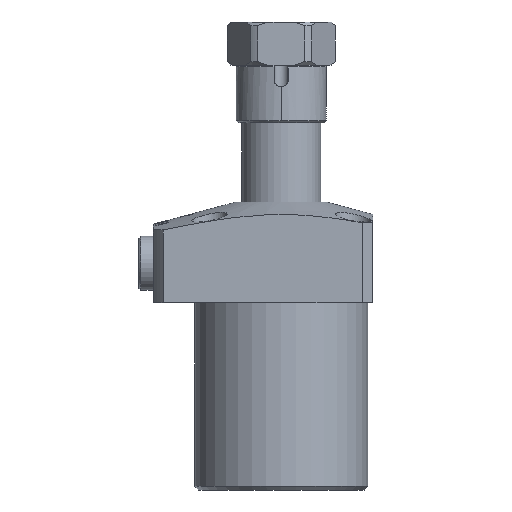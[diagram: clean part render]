
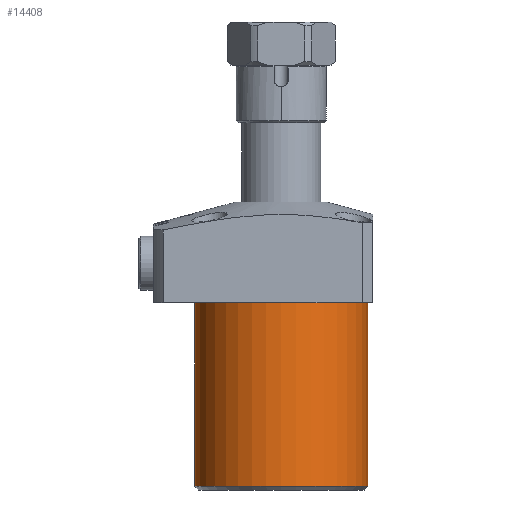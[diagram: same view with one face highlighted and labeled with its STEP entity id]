
A CAD part, front view. The second image highlights one B-rep face of the part: STEP entity #14408.
In plain terms, the highlighted cylindrical face has radius 24 mm (diameter 48 mm), a partial arc.
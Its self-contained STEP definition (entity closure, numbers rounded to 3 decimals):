
#235 = VECTOR ( 'NONE', #13787, 1000. ) ;
#920 = EDGE_CURVE ( 'NONE', #15205, #4272, #2001, .T. ) ;
#1131 = CARTESIAN_POINT ( 'NONE',  ( 0., 0., -51. ) ) ;
#1201 = ORIENTED_EDGE ( 'NONE', *, *, #9675, .T. ) ;
#2001 = CIRCLE ( 'NONE', #11495, 24. ) ;
#2251 = DIRECTION ( 'NONE',  ( 0., 0., 1. ) ) ;
#2415 = DIRECTION ( 'NONE',  ( -1., 0., 0. ) ) ;
#2570 = EDGE_CURVE ( 'NONE', #5489, #15078, #13168, .T. ) ;
#2660 = CARTESIAN_POINT ( 'NONE',  ( -24., 0., -51. ) ) ;
#3593 = DIRECTION ( 'NONE',  ( 0., 0., -1. ) ) ;
#4100 = EDGE_LOOP ( 'NONE', ( #8265, #15662, #1201, #9653 ) ) ;
#4272 = VERTEX_POINT ( 'NONE', #8943 ) ;
#4277 = AXIS2_PLACEMENT_3D ( 'NONE', #11422, #3593, #12720 ) ;
#4892 = DIRECTION ( 'NONE',  ( 1., 0., 0. ) ) ;
#5489 = VERTEX_POINT ( 'NONE', #8293 ) ;
#5625 = CARTESIAN_POINT ( 'NONE',  ( -24., 0., -52. ) ) ;
#5987 = FACE_OUTER_BOUND ( 'NONE', #4100, .T. ) ;
#6593 = VECTOR ( 'NONE', #9525, 1000. ) ;
#6993 = LINE ( 'NONE', #5625, #6593 ) ;
#7291 = CARTESIAN_POINT ( 'NONE',  ( 24., 0., -52. ) ) ;
#8265 = ORIENTED_EDGE ( 'NONE', *, *, #14737, .F. ) ;
#8293 = CARTESIAN_POINT ( 'NONE',  ( 24., 0., 0. ) ) ;
#8341 = AXIS2_PLACEMENT_3D ( 'NONE', #12718, #2251, #4892 ) ;
#8943 = CARTESIAN_POINT ( 'NONE',  ( 24., 0., -51. ) ) ;
#9054 = CYLINDRICAL_SURFACE ( 'NONE', #8341, 24. ) ;
#9525 = DIRECTION ( 'NONE',  ( 0., 0., 1. ) ) ;
#9653 = ORIENTED_EDGE ( 'NONE', *, *, #2570, .T. ) ;
#9675 = EDGE_CURVE ( 'NONE', #4272, #5489, #10610, .T. ) ;
#10226 = DIRECTION ( 'NONE',  ( 0., 0., 1. ) ) ;
#10610 = LINE ( 'NONE', #7291, #235 ) ;
#11422 = CARTESIAN_POINT ( 'NONE',  ( 0., 0., 0. ) ) ;
#11495 = AXIS2_PLACEMENT_3D ( 'NONE', #1131, #10226, #2415 ) ;
#12718 = CARTESIAN_POINT ( 'NONE',  ( 0., 0., -52. ) ) ;
#12720 = DIRECTION ( 'NONE',  ( -1., 0., 0. ) ) ;
#12854 = CARTESIAN_POINT ( 'NONE',  ( -24., 0., 0. ) ) ;
#13168 = CIRCLE ( 'NONE', #4277, 24. ) ;
#13787 = DIRECTION ( 'NONE',  ( 0., 0., 1. ) ) ;
#14408 = ADVANCED_FACE ( 'NONE', ( #5987 ), #9054, .T. ) ;
#14737 = EDGE_CURVE ( 'NONE', #15205, #15078, #6993, .T. ) ;
#15078 = VERTEX_POINT ( 'NONE', #12854 ) ;
#15205 = VERTEX_POINT ( 'NONE', #2660 ) ;
#15662 = ORIENTED_EDGE ( 'NONE', *, *, #920, .T. ) ;
